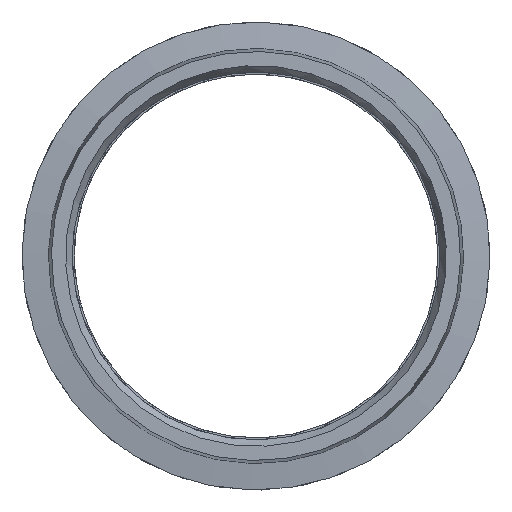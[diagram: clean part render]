
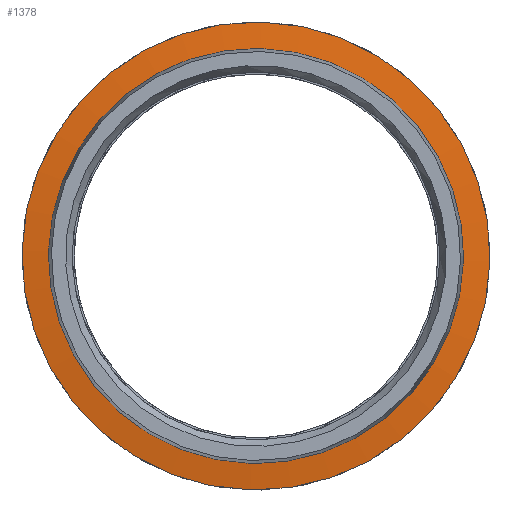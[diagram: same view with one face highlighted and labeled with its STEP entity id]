
A CAD part, left-side view. The second image highlights one B-rep face of the part: STEP entity #1378.
In plain terms, the highlighted conical face has half-angle 83 degrees and reference radius 18.615 mm.
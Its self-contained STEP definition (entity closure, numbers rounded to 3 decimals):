
#229=FACE_OUTER_BOUND('',#327,.T.);
#327=EDGE_LOOP('',(#1069,#1070,#1071,#1072,#1073));
#386=LINE('',#6328,#403);
#403=VECTOR('',#1772,18.615);
#458=CIRCLE('',#1504,18.618);
#460=CIRCLE('',#1506,18.618);
#462=CIRCLE('',#1509,21.);
#583=VERTEX_POINT('',#3014);
#584=VERTEX_POINT('',#3015);
#587=VERTEX_POINT('',#3149);
#737=EDGE_CURVE('',#583,#584,#458,.T.);
#741=EDGE_CURVE('',#584,#583,#460,.T.);
#743=EDGE_CURVE('',#587,#587,#462,.T.);
#801=EDGE_CURVE('',#587,#583,#386,.T.);
#1069=ORIENTED_EDGE('',*,*,#743,.T.);
#1070=ORIENTED_EDGE('',*,*,#801,.T.);
#1071=ORIENTED_EDGE('',*,*,#737,.T.);
#1072=ORIENTED_EDGE('',*,*,#741,.T.);
#1073=ORIENTED_EDGE('',*,*,#801,.F.);
#1242=CONICAL_SURFACE('',#1534,18.615,1.449);
#1378=ADVANCED_FACE('',(#229),#1242,.T.);
#1504=AXIS2_PLACEMENT_3D('',#3016,#1707,#1708);
#1506=AXIS2_PLACEMENT_3D('',#3146,#1711,#1712);
#1509=AXIS2_PLACEMENT_3D('',#3150,#1717,#1718);
#1534=AXIS2_PLACEMENT_3D('',#6327,#1770,#1771);
#1707=DIRECTION('center_axis',(1.,0.,0.));
#1708=DIRECTION('ref_axis',(0.,1.,0.));
#1711=DIRECTION('center_axis',(1.,0.,0.));
#1712=DIRECTION('ref_axis',(0.,-0.878,0.479));
#1717=DIRECTION('center_axis',(-1.,0.,0.));
#1718=DIRECTION('ref_axis',(0.,0.878,-0.479));
#1770=DIRECTION('center_axis',(1.,0.,0.));
#1771=DIRECTION('ref_axis',(0.,0.878,-0.479));
#1772=DIRECTION('',(-0.122,0.871,-0.476));
#3014=CARTESIAN_POINT('',(-41.419,-16.339,8.926));
#3015=CARTESIAN_POINT('',(-41.419,16.339,-8.926));
#3016=CARTESIAN_POINT('Origin',(-41.419,0.,
0.));
#3146=CARTESIAN_POINT('Origin',(-41.419,0.,
0.));
#3149=CARTESIAN_POINT('',(-41.127,-18.429,10.068));
#3150=CARTESIAN_POINT('Origin',(-41.127,0.,
0.));
#6327=CARTESIAN_POINT('Origin',(-41.42,0.,0.));
#6328=CARTESIAN_POINT('',(-41.42,-16.336,8.924));
